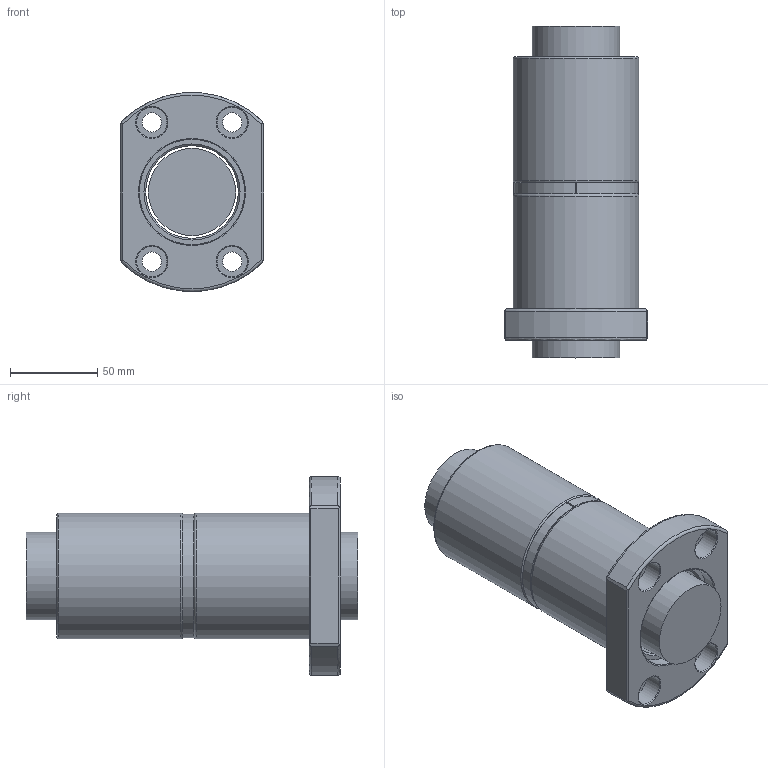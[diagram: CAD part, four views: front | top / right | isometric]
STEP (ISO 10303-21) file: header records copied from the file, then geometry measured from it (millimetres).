
FILE_DESCRIPTION(/* description */ (''),/* implementation_level */ '2;1');
FILE_NAME(/* name */ '5010.prt.step',/* time_stamp */ '2008-12-05T09:22:31+08:00',/* author */ (''),/* organization */ (''),/* preprocessor_version */ 'ST-DEVELOPER v11',/* originating_system */ 'SIEMENS UGS NX 6.0',/* authorisation */ '');
FILE_SCHEMA (('AUTOMOTIVE_DESIGN { 1 0 10303 214 1 1 1 1 }'));
Length unit declared in the file: millimetre
Products named in the file (1): 5010
Bounding box: 82 x 190 x 113.93 mm (x, y, z)
Volume: 726130.3 mm3; surface area: 121201.4 mm2
Topology: 5 solids, 5 shells, 75 faces, 162 edges, 106 vertices
Faces by surface type: plane 33, cylinder 23, cone 10, torus 9
Full cylindrical faces by diameter (mm): 11 x4, 17.5 x4, 49.95 x1, 53 x2, 60.3 x4, 72 x2
Entity records: 2054 total; most frequent: CARTESIAN_POINT 498, DIRECTION 322, ORIENTED_EDGE 242, AXIS2_PLACEMENT_3D 141, EDGE_LOOP 128, EDGE_CURVE 121, FACE_BOUND 98, VERTEX_POINT 97
